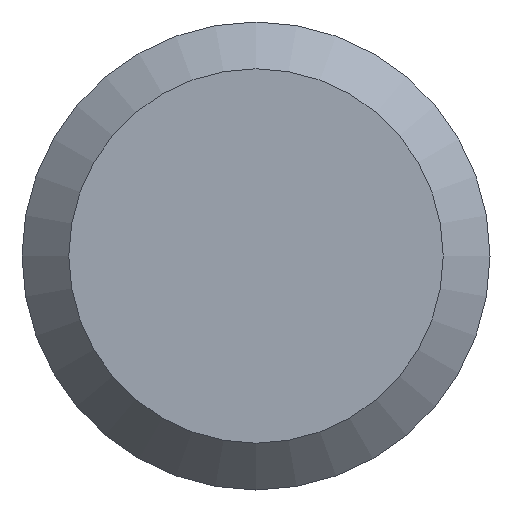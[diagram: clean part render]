
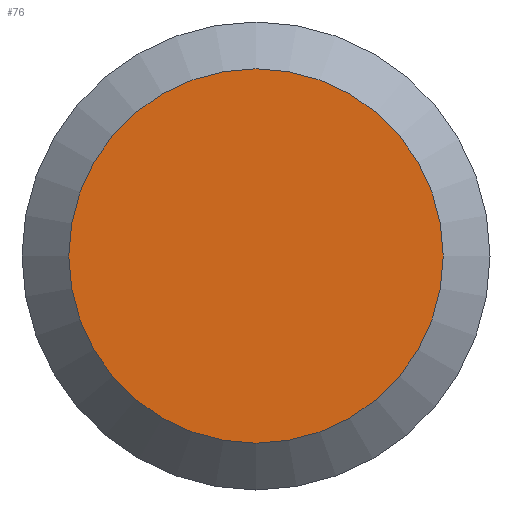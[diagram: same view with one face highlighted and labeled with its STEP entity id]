
A CAD part, left-side view. The second image highlights one B-rep face of the part: STEP entity #76.
In plain terms, the highlighted planar face has unit normal (-1, 0, 0).
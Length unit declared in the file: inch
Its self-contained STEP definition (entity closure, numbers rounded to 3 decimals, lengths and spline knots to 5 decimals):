
#8 = DIRECTION ( 'NONE',  ( 0., 0., -1. ) ) ;
#9 = EDGE_LOOP ( 'NONE', ( #48 ) ) ;
#20 = AXIS2_PLACEMENT_3D ( 'NONE', #131, #217, #93 ) ;
#30 = AXIS2_PLACEMENT_3D ( 'NONE', #206, #55, #8 ) ;
#48 = ORIENTED_EDGE ( 'NONE', *, *, #151, .T. ) ;
#55 = DIRECTION ( 'NONE',  ( 1., 0., 0. ) ) ;
#60 = FACE_OUTER_BOUND ( 'NONE', #9, .T. ) ;
#76 = ADVANCED_FACE ( 'NONE', ( #60 ), #135, .F. ) ;
#90 = CARTESIAN_POINT ( 'NONE',  ( 0., 0., -0.16875 ) ) ;
#93 = DIRECTION ( 'NONE',  ( 0., 0., -1. ) ) ;
#131 = CARTESIAN_POINT ( 'NONE',  ( 0., 0., 0. ) ) ;
#135 = PLANE ( 'NONE',  #30 ) ;
#151 = EDGE_CURVE ( 'NONE', #225, #225, #170, .T. ) ;
#170 = CIRCLE ( 'NONE', #20, 0.16875 ) ;
#206 = CARTESIAN_POINT ( 'NONE',  ( 0., 0.21094, 0. ) ) ;
#217 = DIRECTION ( 'NONE',  ( -1., 0., 0. ) ) ;
#225 = VERTEX_POINT ( 'NONE', #90 ) ;
